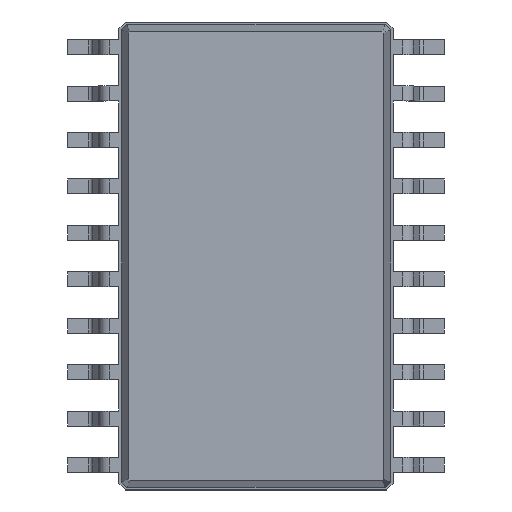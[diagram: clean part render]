
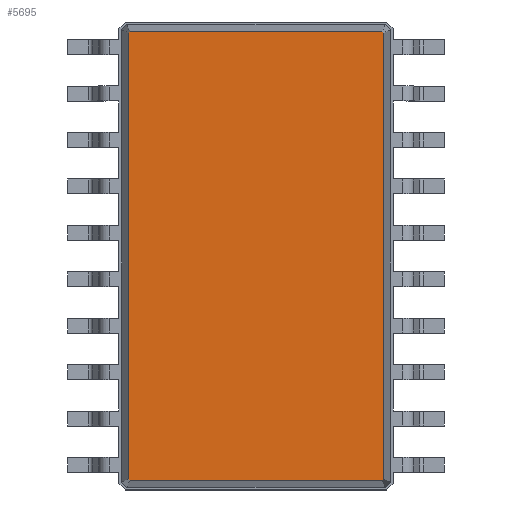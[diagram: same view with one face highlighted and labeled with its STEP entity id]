
A CAD part, top view. The second image highlights one B-rep face of the part: STEP entity #5695.
In plain terms, the highlighted planar face has unit normal (0, 0, 1).
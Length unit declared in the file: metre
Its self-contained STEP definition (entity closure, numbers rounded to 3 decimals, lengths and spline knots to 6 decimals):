
#1204=ORIENTED_EDGE('',*,*,#2133,.F.);
#1205=ORIENTED_EDGE('',*,*,#2131,.F.);
#1206=ORIENTED_EDGE('',*,*,#2129,.F.);
#1207=ORIENTED_EDGE('',*,*,#2520,.F.);
#1208=ORIENTED_EDGE('',*,*,#2521,.F.);
#1209=ORIENTED_EDGE('',*,*,#2522,.F.);
#1210=ORIENTED_EDGE('',*,*,#2137,.F.);
#1211=ORIENTED_EDGE('',*,*,#2135,.F.);
#2129=EDGE_CURVE('',#2856,#2857,#3453,.T.);
#2131=EDGE_CURVE('',#2857,#2858,#3455,.T.);
#2133=EDGE_CURVE('',#2858,#2859,#3457,.T.);
#2135=EDGE_CURVE('',#2859,#2860,#3459,.T.);
#2137=EDGE_CURVE('',#2860,#2861,#3461,.T.);
#2520=EDGE_CURVE('',#3182,#2856,#3684,.T.);
#2521=EDGE_CURVE('',#3183,#3182,#3685,.T.);
#2522=EDGE_CURVE('',#2861,#3183,#3686,.T.);
#2856=VERTEX_POINT('',#8371);
#2857=VERTEX_POINT('',#8373);
#2858=VERTEX_POINT('',#8377);
#2859=VERTEX_POINT('',#8381);
#2860=VERTEX_POINT('',#8385);
#2861=VERTEX_POINT('',#8389);
#3182=VERTEX_POINT('',#9155);
#3183=VERTEX_POINT('',#9157);
#3453=LINE('',#8372,#4097);
#3455=LINE('',#8376,#4099);
#3457=LINE('',#8380,#4101);
#3459=LINE('',#8384,#4103);
#3461=LINE('',#8388,#4105);
#3684=LINE('',#9154,#4328);
#3685=LINE('',#9156,#4329);
#3686=LINE('',#9158,#4330);
#4097=VECTOR('',#6699,1.);
#4099=VECTOR('',#6703,1.);
#4101=VECTOR('',#6707,1.);
#4103=VECTOR('',#6711,1.);
#4105=VECTOR('',#6715,1.);
#4328=VECTOR('',#7382,1.);
#4329=VECTOR('',#7383,1.);
#4330=VECTOR('',#7384,1.);
#4597=EDGE_LOOP('',(#1204,#1205,#1206,#1207,#1208,#1209,#1210,#1211));
#4885=FACE_BOUND('',#4597,.T.);
#5151=PLANE('',#6147);
#5695=ADVANCED_FACE('',(#4885),#5151,.T.);
#6147=AXIS2_PLACEMENT_3D('',#9153,#7380,#7381);
#6699=DIRECTION('',(0.,1.,0.));
#6703=DIRECTION('',(0.707,0.707,0.));
#6707=DIRECTION('',(1.,0.,0.));
#6711=DIRECTION('',(0.707,-0.707,0.));
#6715=DIRECTION('',(0.,-1.,0.));
#7380=DIRECTION('',(0.,0.,1.));
#7381=DIRECTION('',(0.489,-0.872,0.));
#7382=DIRECTION('',(-0.707,0.707,0.));
#7383=DIRECTION('',(-1.,0.,0.));
#7384=DIRECTION('',(-0.707,-0.707,0.));
#8371=CARTESIAN_POINT('',(-0.003986,-0.014088,0.004345));
#8372=CARTESIAN_POINT('',(-0.003986,-0.014088,0.004345));
#8373=CARTESIAN_POINT('',(-0.003986,-0.0019,0.004345));
#8376=CARTESIAN_POINT('',(-0.003986,-0.0019,0.004345));
#8377=CARTESIAN_POINT('',(-0.003942,-0.001855,0.004345));
#8380=CARTESIAN_POINT('',(-0.003942,-0.001855,0.004345));
#8381=CARTESIAN_POINT('',(0.002947,-0.001855,0.004345));
#8384=CARTESIAN_POINT('',(0.002947,-0.001855,0.004345));
#8385=CARTESIAN_POINT('',(0.002991,-0.0019,0.004345));
#8388=CARTESIAN_POINT('',(0.002991,-0.0019,0.004345));
#8389=CARTESIAN_POINT('',(0.002991,-0.014088,0.004345));
#9153=CARTESIAN_POINT('',(-0.003942,-0.001855,0.004345));
#9154=CARTESIAN_POINT('',(-0.003942,-0.014133,0.004345));
#9155=CARTESIAN_POINT('',(-0.003942,-0.014133,0.004345));
#9156=CARTESIAN_POINT('',(0.002947,-0.014133,0.004345));
#9157=CARTESIAN_POINT('',(0.002947,-0.014133,0.004345));
#9158=CARTESIAN_POINT('',(0.002991,-0.014088,0.004345));
